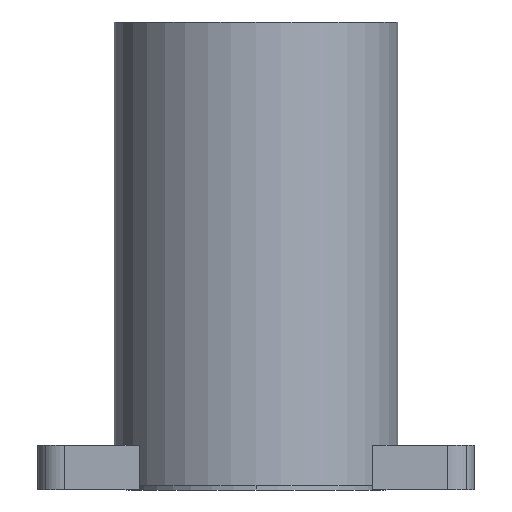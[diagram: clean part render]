
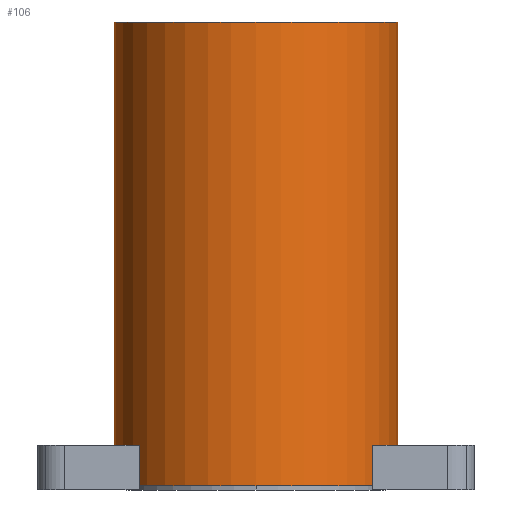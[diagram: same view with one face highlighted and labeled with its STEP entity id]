
A CAD part, left-side view. The second image highlights one B-rep face of the part: STEP entity #106.
In plain terms, the highlighted cylindrical face has radius 15.9 mm (diameter 31.8 mm), a partial arc.
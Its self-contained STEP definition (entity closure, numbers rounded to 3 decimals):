
#106=ADVANCED_FACE('',(#171),#172,.T.);
#171=FACE_OUTER_BOUND('',#309,.T.);
#172=CYLINDRICAL_SURFACE('',#310,15.9);
#309=EDGE_LOOP('',(#447,#448,#449,#450));
#310=AXIS2_PLACEMENT_3D('',#451,#452,#453);
#447=ORIENTED_EDGE('',*,*,#915,.F.);
#448=ORIENTED_EDGE('',*,*,#916,.T.);
#449=ORIENTED_EDGE('',*,*,#917,.F.);
#450=ORIENTED_EDGE('',*,*,#918,.T.);
#451=CARTESIAN_POINT('',(0.,0.,0.0));
#452=DIRECTION('',(0.0,-0.0,1.0));
#453=DIRECTION('',(0.,1.0,0.0));
#915=EDGE_CURVE('',#1064,#1065,#1066,.T.);
#916=EDGE_CURVE('',#1064,#1067,#1068,.T.);
#917=EDGE_CURVE('',#1069,#1067,#1070,.T.);
#918=EDGE_CURVE('',#1069,#1065,#1071,.T.);
#1064=VERTEX_POINT('',#1304);
#1065=VERTEX_POINT('',#1305);
#1066=LINE('',#1306,#1307);
#1067=VERTEX_POINT('',#1308);
#1068=CIRCLE('',#1309,15.9);
#1069=VERTEX_POINT('',#1310);
#1070=LINE('',#1311,#1312);
#1071=CIRCLE('',#1313,15.9);
#1304=CARTESIAN_POINT('',(0.,15.9,0.0));
#1305=CARTESIAN_POINT('',(0.,15.9,52.0));
#1306=CARTESIAN_POINT('',(0.,15.9,0.0));
#1307=VECTOR('',#1638,1.0);
#1308=CARTESIAN_POINT('',(0.,-15.9,0.0));
#1309=AXIS2_PLACEMENT_3D('',#1639,#1640,#1641);
#1310=CARTESIAN_POINT('',(0.,-15.9,52.0));
#1311=CARTESIAN_POINT('',(0.,-15.9,0.0));
#1312=VECTOR('',#1642,1.0);
#1313=AXIS2_PLACEMENT_3D('',#1643,#1644,#1645);
#1638=DIRECTION('',(0.0,0.0,1.0));
#1639=CARTESIAN_POINT('',(0.,0.,0.0));
#1640=DIRECTION('',(0.0,-0.0,1.0));
#1641=DIRECTION('',(0.,1.0,0.0));
#1642=DIRECTION('',(-0.0,-0.0,-1.0));
#1643=CARTESIAN_POINT('',(0.,0.,52.0));
#1644=DIRECTION('',(0.0,0.0,-1.0));
#1645=DIRECTION('',(0.,1.0,0.0));
